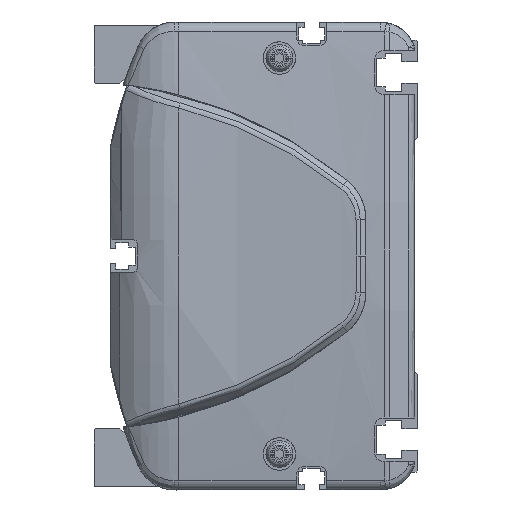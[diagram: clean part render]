
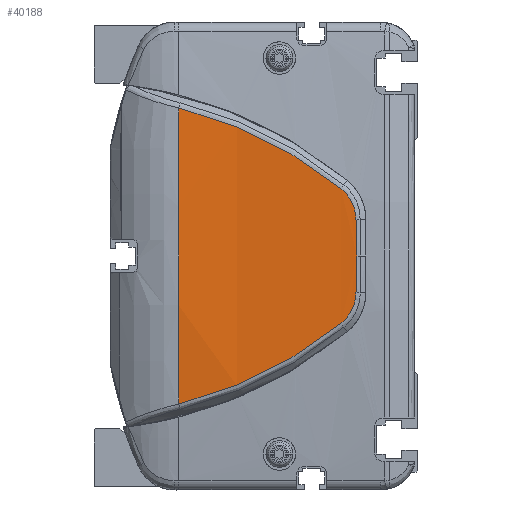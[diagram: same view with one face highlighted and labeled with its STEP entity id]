
A CAD part, left-side view. The second image highlights one B-rep face of the part: STEP entity #40188.
In plain terms, the highlighted cylindrical face has radius 500 mm (diameter 1000 mm), a partial arc.
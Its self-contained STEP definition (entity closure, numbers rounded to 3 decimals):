
#36451=CARTESIAN_POINT('',(486.,66.362,0.));
#36452=DIRECTION('',(0.,-1.,0.));
#36453=DIRECTION('',(-0.997,0.,0.082));
#36454=AXIS2_PLACEMENT_3D('',#36451,#36452,#36453);
#37328=CARTESIAN_POINT('',(-13.648,21.313,
-18.759));
#37329=CARTESIAN_POINT('',(-13.449,27.904,
-24.058));
#37330=CARTESIAN_POINT('',(-12.934,42.195,
-33.27));
#37331=CARTESIAN_POINT('',(-12.471,58.156,
-39.127));
#37332=CARTESIAN_POINT('',(-12.306,66.362,
-41.121));
#37334=CARTESIAN_POINT('',(-12.306,66.362,
41.121));
#37335=CARTESIAN_POINT('',(-12.471,58.156,
39.127));
#37336=CARTESIAN_POINT('',(-12.934,42.195,
33.27));
#37337=CARTESIAN_POINT('',(-13.449,27.904,
24.058));
#37338=CARTESIAN_POINT('',(-13.648,21.313,
18.759));
#37340=CARTESIAN_POINT('',(-13.648,21.313,
18.759));
#37341=CARTESIAN_POINT('',(-13.686,20.035,
17.736));
#37342=CARTESIAN_POINT('',(-13.779,17.936,
15.107));
#37343=CARTESIAN_POINT('',(-13.863,17.152,
11.827));
#37344=CARTESIAN_POINT('',(-13.896,17.124,
10.178));
#37346=CARTESIAN_POINT('',(-13.896,17.124,
10.178));
#37347=CARTESIAN_POINT('',(-13.92,17.107,
9.026));
#37348=CARTESIAN_POINT('',(-13.959,17.067,
6.736));
#37349=CARTESIAN_POINT('',(-13.993,16.98,
3.342));
#37350=CARTESIAN_POINT('',(-14.,16.898,
1.109));
#37351=CARTESIAN_POINT('',(-14.,16.849,
0.));
#37353=CARTESIAN_POINT('',(-14.,16.849,
0.));
#37354=CARTESIAN_POINT('',(-14.,16.898,
-1.109));
#37355=CARTESIAN_POINT('',(-13.993,16.98,
-3.343));
#37356=CARTESIAN_POINT('',(-13.959,17.067,
-6.736));
#37357=CARTESIAN_POINT('',(-13.92,17.107,
-9.028));
#37358=CARTESIAN_POINT('',(-13.896,17.124,
-10.18));
#37360=CARTESIAN_POINT('',(-13.896,17.124,
-10.18));
#37361=CARTESIAN_POINT('',(-13.863,17.152,
-11.828));
#37362=CARTESIAN_POINT('',(-13.779,17.937,
-15.109));
#37363=CARTESIAN_POINT('',(-13.686,20.035,
-17.736));
#37364=CARTESIAN_POINT('',(-13.648,21.313,
-18.759));
#38012=VERTEX_POINT('',#37328);
#38013=VERTEX_POINT('',#37332);
#38014=CARTESIAN_POINT('',(-12.306,66.362,
41.121));
#38015=VERTEX_POINT('',#38014);
#38016=VERTEX_POINT('',#37338);
#38017=VERTEX_POINT('',#37344);
#38018=VERTEX_POINT('',#37351);
#38019=VERTEX_POINT('',#37358);
#40169=CARTESIAN_POINT('',(486.,8.006,0.));
#40170=DIRECTION('',(0.,1.,0.));
#40171=DIRECTION('',(1.,0.,0.));
#40172=AXIS2_PLACEMENT_3D('',#40169,#40170,#40171);
#40173=CYLINDRICAL_SURFACE('',#40172,500.);
#40175=ORIENTED_EDGE('',*,*,#40174,.T.);
#40176=ORIENTED_EDGE('',*,*,#38814,.F.);
#40178=ORIENTED_EDGE('',*,*,#40177,.T.);
#40180=ORIENTED_EDGE('',*,*,#40179,.T.);
#40182=ORIENTED_EDGE('',*,*,#40181,.T.);
#40184=ORIENTED_EDGE('',*,*,#40183,.T.);
#40185=ORIENTED_EDGE('',*,*,#40159,.T.);
#40186=EDGE_LOOP('',(#40175,#40176,#40178,#40180,#40182,#40184,#40185));
#40187=FACE_OUTER_BOUND('',#40186,.F.);
#40188=ADVANCED_FACE('',(#40187),#40173,.T.);
#36455=CIRCLE('',#36454,500.);
#37333=B_SPLINE_CURVE_WITH_KNOTS('',3,(#37328,#37329,#37330,#37331,#37332),
.UNSPECIFIED.,.F.,.F.,(4,1,4),(0.,0.5,1.),.UNSPECIFIED.);
#37339=B_SPLINE_CURVE_WITH_KNOTS('',3,(#37334,#37335,#37336,#37337,#37338),
.UNSPECIFIED.,.F.,.F.,(4,1,4),(0.,0.5,1.),.UNSPECIFIED.);
#37345=B_SPLINE_CURVE_WITH_KNOTS('',3,(#37340,#37341,#37342,#37343,#37344),
.UNSPECIFIED.,.F.,.F.,(4,1,4),(0.,0.5,1.),.UNSPECIFIED.);
#37352=B_SPLINE_CURVE_WITH_KNOTS('',3,(#37346,#37347,#37348,#37349,#37350,
#37351),.UNSPECIFIED.,.F.,.F.,(4,1,1,4),(0.,0.333,
0.667,1.),.UNSPECIFIED.);
#37359=B_SPLINE_CURVE_WITH_KNOTS('',3,(#37353,#37354,#37355,#37356,#37357,
#37358),.UNSPECIFIED.,.F.,.F.,(4,1,1,4),(0.,0.333,
0.667,1.),.UNSPECIFIED.);
#37365=B_SPLINE_CURVE_WITH_KNOTS('',3,(#37360,#37361,#37362,#37363,#37364),
.UNSPECIFIED.,.F.,.F.,(4,1,4),(0.,0.5,1.),.UNSPECIFIED.);
#38814=EDGE_CURVE('',#38015,#38013,#36455,.T.);
#40159=EDGE_CURVE('',#38019,#38012,#37365,.T.);
#40174=EDGE_CURVE('',#38012,#38013,#37333,.T.);
#40177=EDGE_CURVE('',#38015,#38016,#37339,.T.);
#40179=EDGE_CURVE('',#38016,#38017,#37345,.T.);
#40181=EDGE_CURVE('',#38017,#38018,#37352,.T.);
#40183=EDGE_CURVE('',#38018,#38019,#37359,.T.);
